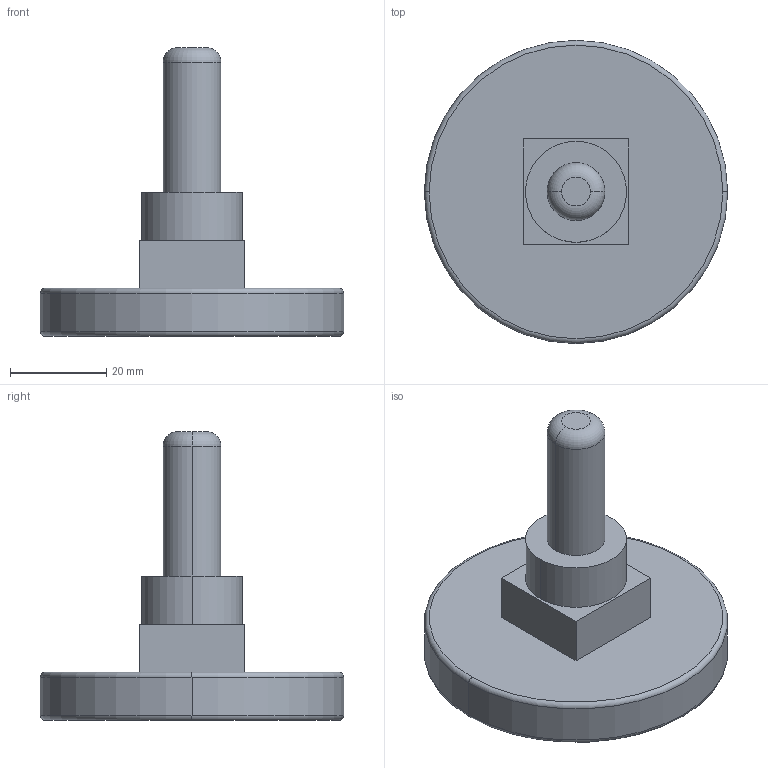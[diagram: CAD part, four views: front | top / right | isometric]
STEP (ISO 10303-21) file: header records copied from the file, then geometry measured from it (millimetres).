
FILE_DESCRIPTION (( 'STEP AP214' ), '1' );
FILE_NAME ('Termometr_bimetaliczny_x_0_3D_AFRISO.STEP', '2022-12-16T13:34:48', ( '' ), ( '' ), 'SwSTEP 2.0', 'SolidWorks 2022', '' );
FILE_SCHEMA (( 'AUTOMOTIVE_DESIGN' ));
Length unit declared in the file: millimetre
Products named in the file (1): Termometr_bimetaliczny_x_0_3D_AFRISO
Bounding box: 63 x 63 x 60 mm (x, y, z)
Volume: 42720 mm3; surface area: 10661.1 mm2
Topology: 1 solids, 1 shells, 21 faces, 42 edges, 26 vertices
Faces by surface type: plane 9, torus 6, cylinder 6
Entity records: 586 total; most frequent: DIRECTION 110, CARTESIAN_POINT 90, ORIENTED_EDGE 84, AXIS2_PLACEMENT_3D 46, EDGE_CURVE 42, VERTEX_POINT 26, EDGE_LOOP 24, CIRCLE 24
